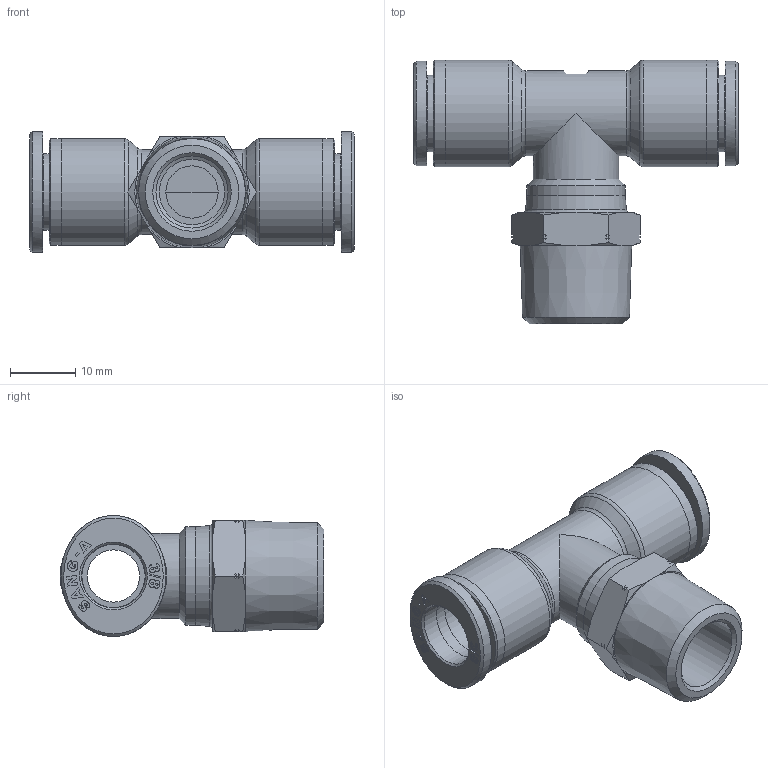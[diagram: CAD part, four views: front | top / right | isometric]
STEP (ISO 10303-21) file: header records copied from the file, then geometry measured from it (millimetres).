
FILE_DESCRIPTION((''),'2;1');
FILE_NAME('C:\Users\user0117\Desktop\김진일\G-FITTING INCH\3-8\G-FITTING INCH (STEP)\GPT 3_8-R03.stp','2020-04-23T15:15:04',('user0117'),(''),'Autodesk Inventor 2013','Autodesk Inventor 2013','');
FILE_SCHEMA(('AUTOMOTIVE_DESIGN { 1 0 10303 214 1 1 1 1 }'));
Length unit declared in the file: millimetre
Products named in the file (6): GPT 3_8-R03; GPL BODY 1-2 R03(BRASS); GPT BODY 3-8(PLASTIC); G-COLLAR 3-8L; COLLAR G3-8L; SLEEVE G3-8
Assembly tree (6 placements, depth 3):
  GPT 3_8-R03
    GPL BODY 1-2 R03(BRASS)
    GPT BODY 3-8(PLASTIC)
    G-COLLAR 3-8L  x2
      COLLAR G3-8L
      SLEEVE G3-8
Bounding box: 49.6 x 40.3 x 18.49 mm (x, y, z)
Volume: 9433.3 mm3; surface area: 8375.4 mm2
Topology: 6 solids, 6 shells, 727 faces, 2020 edges, 1339 vertices
Faces by surface type: plane 568, bspline 74, cone 52, cylinder 28, torus 5
Full cylindrical faces by diameter (mm): 8 x2, 9.75 x6, 10 x1, 11 x1, 11.7 x2, 13 x2, 14.1 x1, 15 x1, 16.3 x4
Entity records: 13100 total; most frequent: CARTESIAN_POINT 3113, ORIENTED_EDGE 2150, DIRECTION 1786, EDGE_CURVE 1075, VECTOR 840, LINE 840, VERTEX_POINT 730, AXIS2_PLACEMENT_3D 473
